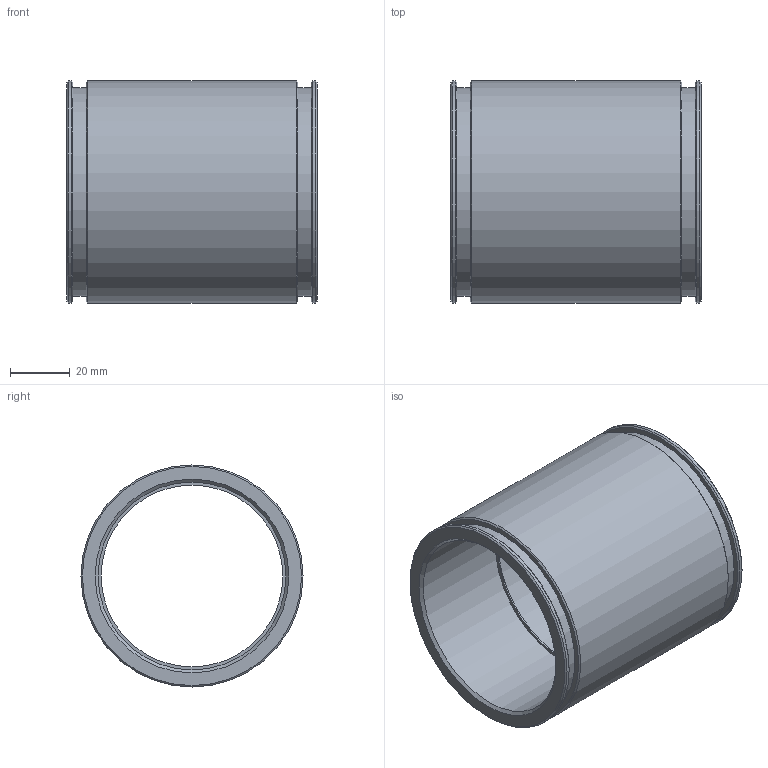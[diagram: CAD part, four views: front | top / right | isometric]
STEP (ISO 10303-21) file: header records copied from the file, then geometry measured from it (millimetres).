
FILE_DESCRIPTION( ( 'STEP AP214' ), '1' );
FILE_NAME( 'p:/temp/worker_3/temp/app_73_02018121420352372814430192d056f_000000_00_00_000000/format_0/6110-63.stp', '2018-12-14T19:35:23', ( '' ), ( '' ), ' ', 'PARTsolutions', ' ' );
FILE_SCHEMA( ( 'AUTOMOTIVE_DESIGN { 1 0 10303 214 1 1 1 1 }' ) );
Length unit declared in the file: millimetre
Products named in the file (1): _6110-63
Bounding box: 84 x 74.5 x 74.5 mm (x, y, z)
Volume: 99446.8 mm3; surface area: 40428.7 mm2
Topology: 1 solids, 1 shells, 24 faces, 40 edges, 24 vertices
Faces by surface type: plane 8, cone 8, cylinder 8
Full cylindrical faces by diameter (mm): 61 x1, 63 x2, 70 x2, 74.5 x3
Entity records: 696 total; most frequent: DIRECTION 98, CARTESIAN_POINT 73, AXIS2_PLACEMENT_3D 49, EDGE_LOOP 48, ORIENTED_EDGE 48, FACE_OUTER_BOUND 32, STYLED_ITEM 24, PRESENTATION_STYLE_ASSIGNMENT 24
